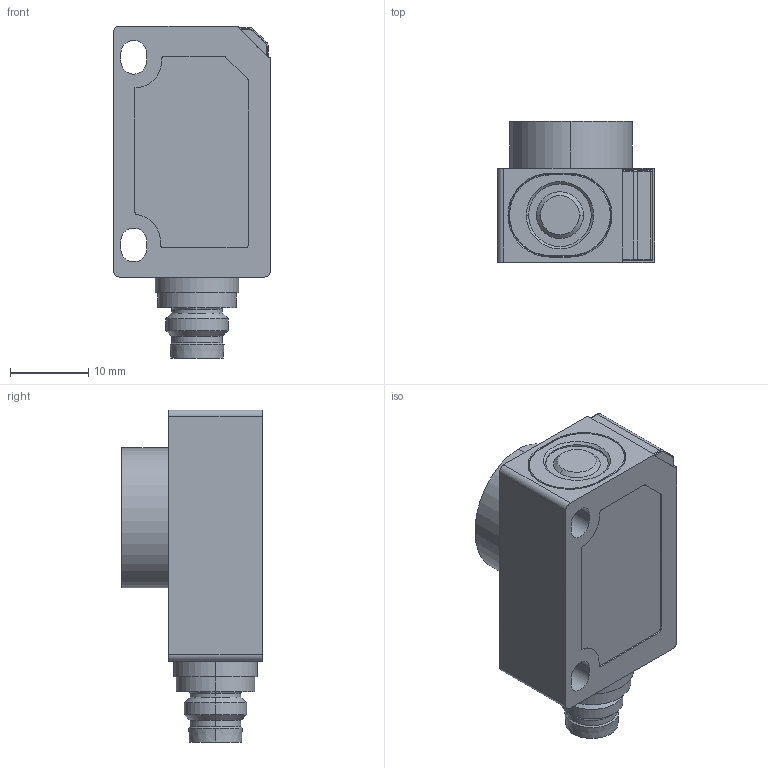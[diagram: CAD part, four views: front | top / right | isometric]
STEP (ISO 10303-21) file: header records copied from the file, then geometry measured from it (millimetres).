
FILE_DESCRIPTION (( 'STEP AP214' ), '1' );
FILE_NAME ('zws-70_CX_QS.stp', '2025-04-25T10:14:31', ( '' ), ( '' ), 'SwSTEP 2.0', 'SolidWorks 2024', '' );
FILE_SCHEMA (( 'AUTOMOTIVE_DESIGN' ));
Length unit declared in the file: millimetre
Products named in the file (1): zws-70_CX_QS
Bounding box: 20.11 x 18 x 42.45 mm (x, y, z)
Volume: 9091.3 mm3; surface area: 3562.1 mm2
Topology: 1 solids, 1 shells, 153 faces, 382 edges, 240 vertices
Faces by surface type: cylinder 59, plane 56, cone 16, bspline 10, sphere 8, torus 4
Entity records: 5841 total; most frequent: CARTESIAN_POINT 896, DIRECTION 792, ORIENTED_EDGE 732, EDGE_CURVE 366, AXIS2_PLACEMENT_3D 294, VERTEX_POINT 232, LINE 204, VECTOR 204
